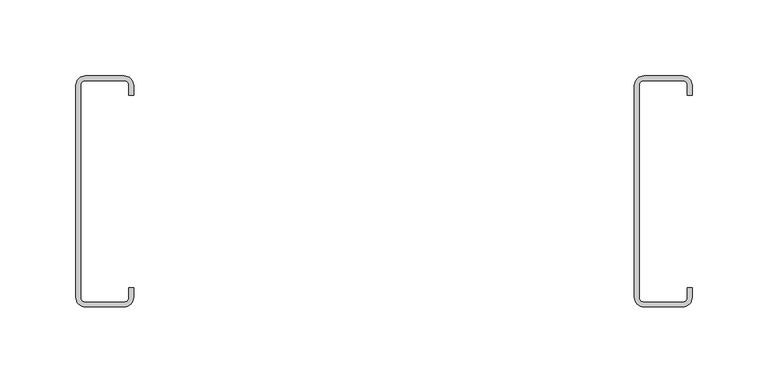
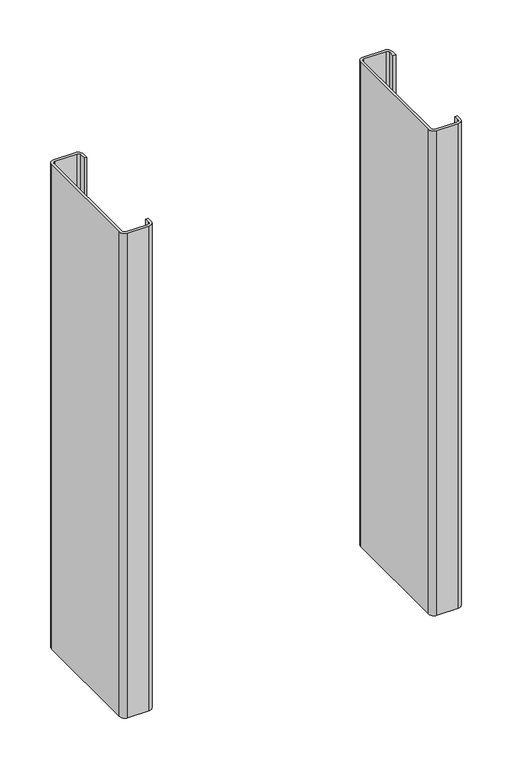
"""IFC4 building model written with IfcOpenShell, lengths in millimetres: proxy geometry, CRAi Generic Model Metal Stud Array : CRAi Generic Model Metal Stud Array."""

from ifc_helpers import new_model, si_unit, point, frame_2d, origin, origin_with_axes, place, context, project, spatial, polyline, circle_curve, trimmed, segment, composite_curve, outline, extrude, source, transform, mapped, element, save


def generic_models_4ceaeb6f(model_context):
    return source(origin(), model_context, "Body", "SweptSolid", [
        extrude(outline(composite_curve([segment(polyline([(203.2, 63.5), (200.025, 63.5), (200.025, 70.2679713)]), True, "CONTINUOUS"), segment(trimmed(circle_curve(frame_2d((196.85, 69.85)), 3.2023936), [point((200.025, 70.2679713))], [point((197.2679713, 73.025))], True, "CARTESIAN"), True, "CONTINUOUS"), segment(polyline([(197.2679713, 73.025), (171.0320287, 73.025)]), True, "CONTINUOUS"), segment(trimmed(circle_curve(frame_2d((171.45, 69.85)), 3.2023936), [point((171.0320287, 73.025))], [point((168.275, 70.2679713))], True, "CARTESIAN"), True, "CONTINUOUS"), segment(polyline([(168.275, 70.2679713), (168.275, -70.2679713)]), True, "CONTINUOUS"), segment(trimmed(circle_curve(frame_2d((171.45, -69.85)), 3.2023936), [point((168.275, -70.2679713))], [point((171.0320287, -73.025))], True, "CARTESIAN"), True, "CONTINUOUS"), segment(polyline([(171.0320287, -73.025), (197.2679713, -73.025)]), True, "CONTINUOUS"), segment(trimmed(circle_curve(frame_2d((196.85, -69.85)), 3.2023936), [point((197.2679713, -73.025))], [point((200.025, -70.2679713))], True, "CARTESIAN"), True, "CONTINUOUS"), segment(polyline([(200.025, -70.2679713), (200.025, -63.5), (203.2, -63.5), (203.2, -69.85)]), True, "CONTINUOUS"), segment(trimmed(circle_curve(frame_2d((196.85, -69.85)), 6.35), [point((203.2, -69.85))], [point((196.85, -76.2))], False, "CARTESIAN"), True, "CONTINUOUS"), segment(polyline([(196.85, -76.2), (171.45, -76.2)]), True, "CONTINUOUS"), segment(trimmed(circle_curve(frame_2d((171.45, -69.85)), 6.35), [point((171.45, -76.2))], [point((165.1, -69.85))], False, "CARTESIAN"), True, "CONTINUOUS"), segment(polyline([(165.1, -69.85), (165.1, 69.85)]), True, "CONTINUOUS"), segment(trimmed(circle_curve(frame_2d((171.45, 69.85)), 6.35), [point((165.1, 69.85))], [point((171.45, 76.2))], False, "CARTESIAN"), True, "CONTINUOUS"), segment(polyline([(171.45, 76.2), (196.85, 76.2)]), True, "CONTINUOUS"), segment(trimmed(circle_curve(frame_2d((196.85, 69.85)), 6.35), [point((196.85, 76.2))], [point((203.2, 69.85))], False, "CARTESIAN"), True, "CONTINUOUS"), segment(polyline([(203.2, 69.85), (203.2, 63.5)]), True, "CONTINUOUS")], self_intersect=False)), origin_with_axes(), (0.0, 0.0, 1.0), 609.6),
        extrude(outline(composite_curve([segment(polyline([(-165.1, 63.5), (-168.275, 63.5), (-168.275, 70.2679713)]), True, "CONTINUOUS"), segment(trimmed(circle_curve(frame_2d((-171.45, 69.85)), 3.2023936), [point((-168.275, 70.2679713))], [point((-171.0320287, 73.025))], True, "CARTESIAN"), True, "CONTINUOUS"), segment(polyline([(-171.0320287, 73.025), (-197.2679713, 73.025)]), True, "CONTINUOUS"), segment(trimmed(circle_curve(frame_2d((-196.85, 69.85)), 3.2023936), [point((-197.2679713, 73.025))], [point((-200.025, 70.2679713))], True, "CARTESIAN"), True, "CONTINUOUS"), segment(polyline([(-200.025, 70.2679713), (-200.025, -70.2679713)]), True, "CONTINUOUS"), segment(trimmed(circle_curve(frame_2d((-196.85, -69.85)), 3.2023936), [point((-200.025, -70.2679713))], [point((-197.2679713, -73.025))], True, "CARTESIAN"), True, "CONTINUOUS"), segment(polyline([(-197.2679713, -73.025), (-171.0320287, -73.025)]), True, "CONTINUOUS"), segment(trimmed(circle_curve(frame_2d((-171.45, -69.85)), 3.2023936), [point((-171.0320287, -73.025))], [point((-168.275, -70.2679713))], True, "CARTESIAN"), True, "CONTINUOUS"), segment(polyline([(-168.275, -70.2679713), (-168.275, -63.5), (-165.1, -63.5), (-165.1, -69.85)]), True, "CONTINUOUS"), segment(trimmed(circle_curve(frame_2d((-171.45, -69.85)), 6.35), [point((-165.1, -69.85))], [point((-171.45, -76.2))], False, "CARTESIAN"), True, "CONTINUOUS"), segment(polyline([(-171.45, -76.2), (-196.85, -76.2)]), True, "CONTINUOUS"), segment(trimmed(circle_curve(frame_2d((-196.85, -69.85)), 6.35), [point((-196.85, -76.2))], [point((-203.2, -69.85))], False, "CARTESIAN"), True, "CONTINUOUS"), segment(polyline([(-203.2, -69.85), (-203.2, 69.85)]), True, "CONTINUOUS"), segment(trimmed(circle_curve(frame_2d((-196.85, 69.85)), 6.35), [point((-203.2, 69.85))], [point((-196.85, 76.2))], False, "CARTESIAN"), True, "CONTINUOUS"), segment(polyline([(-196.85, 76.2), (-171.45, 76.2)]), True, "CONTINUOUS"), segment(trimmed(circle_curve(frame_2d((-171.45, 69.85)), 6.35), [point((-171.45, 76.2))], [point((-165.1, 69.85))], False, "CARTESIAN"), True, "CONTINUOUS"), segment(polyline([(-165.1, 69.85), (-165.1, 63.5)]), True, "CONTINUOUS")], self_intersect=False)), origin_with_axes(), (0.0, 0.0, 1.0), 609.6),
    ])


if __name__ == "__main__":
    model = new_model("IFC4")
    model_context = context("Model", 3, world=origin())
    ifc_project = project(units=[si_unit("LENGTHUNIT", "METRE", prefix="MILLI")], contexts=[model_context])
    site = spatial("IfcSite", under=ifc_project)
    building = spatial("IfcBuilding", under=site)
    placement = place(None, origin())
    generic_models_shape = generic_models_4ceaeb6f(model_context)
    element("IfcBuildingElementProxy", 1, Name="CRAi Generic Model Metal Stud Array : CRAi Generic Model Metal Stud Array", ObjectType="CRAi Generic Model Metal Stud Array : CRAi Generic Model Metal Stud Array", at=placement, inside=building, context=model_context, shape_type="MappedRepresentation", body=[
        mapped(generic_models_shape, transform((0.0, 0.0, 0.0), x_axis=(1.0, 0.0, 0.0), y_axis=(0.0, 1.0, 0.0), z_axis=(0.0, 0.0, 1.0))),
    ])
    save(model, "model.ifc")
